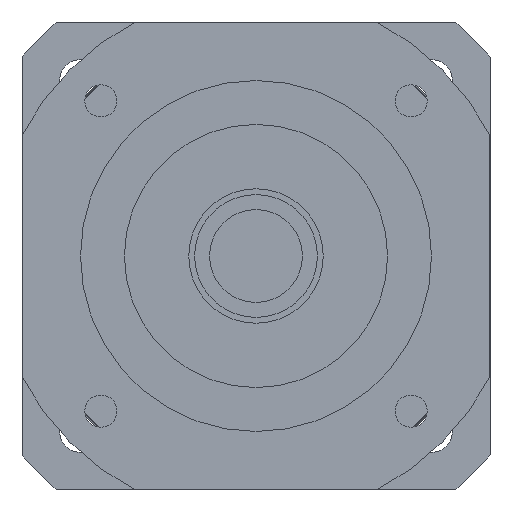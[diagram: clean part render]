
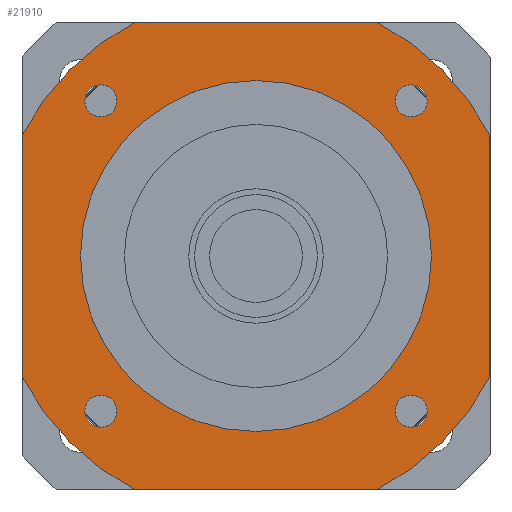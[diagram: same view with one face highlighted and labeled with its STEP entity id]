
A CAD part, left-side view. The second image highlights one B-rep face of the part: STEP entity #21910.
In plain terms, the highlighted planar face has unit normal (-1, 0, 0) as drawn and (0, 0, -1) by its records, which use the part's own axes.
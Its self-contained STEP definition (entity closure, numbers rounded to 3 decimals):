
#13830=CARTESIAN_POINT('',(20.616,40.,-42.));
#13840=VERTEX_POINT('',#13830);
#13890=CARTESIAN_POINT('',(0.,0.,
-42.));
#13900=DIRECTION('',(0.,0.,-1.));
#13910=DIRECTION('',(1.,0.,0.));
#13920=AXIS2_PLACEMENT_3D('',#13890,#13900,#13910);
#13930=CIRCLE('',#13920,45.);
#13940=CARTESIAN_POINT('',(40.,20.616,-42.));
#13950=VERTEX_POINT('',#13940);
#13960=EDGE_CURVE('',#13840,#13950,#13930,.T.);
#19660=CARTESIAN_POINT('',(40.,-20.616,-42.));
#19670=VERTEX_POINT('',#19660);
#19700=CARTESIAN_POINT('',(0.,0.,
-42.));
#19710=DIRECTION('',(0.,0.,-1.));
#19720=DIRECTION('',(1.,0.,0.));
#19730=AXIS2_PLACEMENT_3D('',#19700,#19710,#19720);
#19740=CIRCLE('',#19730,45.);
#19750=CARTESIAN_POINT('',(20.616,-40.,-42.));
#19760=VERTEX_POINT('',#19750);
#19770=EDGE_CURVE('',#19670,#19760,#19740,.T.);
#19950=CARTESIAN_POINT('',(40.,40.,-42.));
#19960=DIRECTION('',(0.,-1.,0.));
#19970=VECTOR('',#19960,1000.);
#19980=LINE('',#19950,#19970);
#19990=EDGE_CURVE('',#13950,#19670,#19980,.T.);
#20120=CARTESIAN_POINT('',(40.,-40.,-42.));
#20130=DIRECTION('',(-1.,0.,0.));
#20140=VECTOR('',#20130,1000.);
#20150=LINE('',#20120,#20140);
#20160=CARTESIAN_POINT('',(-20.616,-40.,-42.));
#20170=VERTEX_POINT('',#20160);
#20180=EDGE_CURVE('',#19760,#20170,#20150,.T.);
#20390=CARTESIAN_POINT('',(-40.,-20.616,-42.));
#20400=VERTEX_POINT('',#20390);
#20430=CARTESIAN_POINT('',(-40.,-40.,-42.));
#20440=DIRECTION('',(0.,1.,0.));
#20450=VECTOR('',#20440,1000.);
#20460=LINE('',#20430,#20450);
#20470=CARTESIAN_POINT('',(-40.,20.616,-42.));
#20480=VERTEX_POINT('',#20470);
#20490=EDGE_CURVE('',#20400,#20480,#20460,.T.);
#20700=CARTESIAN_POINT('',(-20.616,40.,-42.));
#20710=VERTEX_POINT('',#20700);
#20740=CARTESIAN_POINT('',(-40.,40.,-42.));
#20750=DIRECTION('',(1.,0.,0.));
#20760=VECTOR('',#20750,1000.);
#20770=LINE('',#20740,#20760);
#20780=EDGE_CURVE('',#20710,#13840,#20770,.T.);
#20850=CARTESIAN_POINT('',(40.,40.,-42.));
#20860=DIRECTION('',(0.,0.,-1.));
#20870=DIRECTION('',(1.,0.,0.));
#20880=AXIS2_PLACEMENT_3D('',#20850,#20860,#20870);
#20890=PLANE('',#20880);
#20900=CARTESIAN_POINT('',(-26.517,-26.517,-42.));
#20910=DIRECTION('',(0.,0.,-1.));
#20920=DIRECTION('',(0.,-1.,0.));
#20930=AXIS2_PLACEMENT_3D('',#20900,#20910,#20920);
#20940=CIRCLE('',#20930,2.75);
#20950=CARTESIAN_POINT('',(-26.517,-29.267,-42.));
#20960=VERTEX_POINT('',#20950);
#20970=CARTESIAN_POINT('',(-26.517,-23.767,-42.));
#20980=VERTEX_POINT('',#20970);
#20990=EDGE_CURVE('',#20960,#20980,#20940,.T.);
#21000=ORIENTED_EDGE('',*,*,#20990,.F.);
#21010=EDGE_CURVE('',#20980,#20960,#20940,.T.);
#21020=ORIENTED_EDGE('',*,*,#21010,.F.);
#21030=EDGE_LOOP('',(#21020,#21000));
#21040=FACE_BOUND('',#21030,.T.);
#21050=CARTESIAN_POINT('',(-26.517,26.517,-42.));
#21060=DIRECTION('',(0.,0.,-1.));
#21070=DIRECTION('',(-1.,0.,0.));
#21080=AXIS2_PLACEMENT_3D('',#21050,#21060,#21070);
#21090=CIRCLE('',#21080,2.75);
#21100=CARTESIAN_POINT('',(-29.267,26.517,-42.));
#21110=VERTEX_POINT('',#21100);
#21120=CARTESIAN_POINT('',(-23.767,26.517,-42.));
#21130=VERTEX_POINT('',#21120);
#21140=EDGE_CURVE('',#21110,#21130,#21090,.T.);
#21150=ORIENTED_EDGE('',*,*,#21140,.F.);
#21160=EDGE_CURVE('',#21130,#21110,#21090,.T.);
#21170=ORIENTED_EDGE('',*,*,#21160,.F.);
#21180=EDGE_LOOP('',(#21170,#21150));
#21190=FACE_BOUND('',#21180,.T.);
#21200=CARTESIAN_POINT('',(26.517,26.517,-42.));
#21210=DIRECTION('',(0.,0.,-1.));
#21220=DIRECTION('',(0.,1.,0.));
#21230=AXIS2_PLACEMENT_3D('',#21200,#21210,#21220);
#21240=CIRCLE('',#21230,2.75);
#21250=CARTESIAN_POINT('',(26.517,29.267,-42.));
#21260=VERTEX_POINT('',#21250);
#21270=CARTESIAN_POINT('',(26.517,23.767,-42.));
#21280=VERTEX_POINT('',#21270);
#21290=EDGE_CURVE('',#21260,#21280,#21240,.T.);
#21300=ORIENTED_EDGE('',*,*,#21290,.F.);
#21310=EDGE_CURVE('',#21280,#21260,#21240,.T.);
#21320=ORIENTED_EDGE('',*,*,#21310,.F.);
#21330=EDGE_LOOP('',(#21320,#21300));
#21340=FACE_BOUND('',#21330,.T.);
#21350=CARTESIAN_POINT('',(0.,0.,
-42.));
#21360=DIRECTION('',(0.,0.,1.));
#21370=DIRECTION('',(0.,1.,0.));
#21380=AXIS2_PLACEMENT_3D('',#21350,#21360,#21370);
#21390=CIRCLE('',#21380,30.);
#21400=CARTESIAN_POINT('',(-30.,0.,-42.));
#21410=VERTEX_POINT('',#21400);
#21420=CARTESIAN_POINT('',(30.,0.,-42.));
#21430=VERTEX_POINT('',#21420);
#21440=EDGE_CURVE('',#21410,#21430,#21390,.T.);
#21450=ORIENTED_EDGE('',*,*,#21440,.T.);
#21460=CARTESIAN_POINT('',(0.,30.,-42.));
#21470=VERTEX_POINT('',#21460);
#21480=EDGE_CURVE('',#21470,#21410,#21390,.T.);
#21490=ORIENTED_EDGE('',*,*,#21480,.T.);
#21500=EDGE_CURVE('',#21430,#21470,#21390,.T.);
#21510=ORIENTED_EDGE('',*,*,#21500,.T.);
#21520=EDGE_LOOP('',(#21510,#21490,#21450));
#21530=FACE_BOUND('',#21520,.T.);
#21540=ORIENTED_EDGE('',*,*,#20780,.T.);
#21550=CARTESIAN_POINT('',(0.,0.,
-42.));
#21560=DIRECTION('',(0.,0.,-1.));
#21570=DIRECTION('',(1.,0.,0.));
#21580=AXIS2_PLACEMENT_3D('',#21550,#21560,#21570);
#21590=CIRCLE('',#21580,45.);
#21600=EDGE_CURVE('',#20480,#20710,#21590,.T.);
#21610=ORIENTED_EDGE('',*,*,#21600,.T.);
#21620=ORIENTED_EDGE('',*,*,#20490,.T.);
#21630=CARTESIAN_POINT('',(0.,0.,
-42.));
#21640=DIRECTION('',(0.,0.,-1.));
#21650=DIRECTION('',(1.,0.,0.));
#21660=AXIS2_PLACEMENT_3D('',#21630,#21640,#21650);
#21670=CIRCLE('',#21660,45.);
#21680=EDGE_CURVE('',#20170,#20400,#21670,.T.);
#21690=ORIENTED_EDGE('',*,*,#21680,.T.);
#21700=ORIENTED_EDGE('',*,*,#20180,.T.);
#21710=ORIENTED_EDGE('',*,*,#19770,.T.);
#21720=ORIENTED_EDGE('',*,*,#19990,.T.);
#21730=ORIENTED_EDGE('',*,*,#13960,.T.);
#21740=EDGE_LOOP('',(#21730,#21720,#21710,#21700,#21690,#21620,#21610,
#21540));
#21750=FACE_OUTER_BOUND('',#21740,.T.);
#21760=CARTESIAN_POINT('',(26.517,-26.517,-42.));
#21770=DIRECTION('',(0.,0.,-1.));
#21780=DIRECTION('',(1.,0.,0.));
#21790=AXIS2_PLACEMENT_3D('',#21760,#21770,#21780);
#21800=CIRCLE('',#21790,2.75);
#21810=CARTESIAN_POINT('',(29.267,-26.517,-42.));
#21820=VERTEX_POINT('',#21810);
#21830=CARTESIAN_POINT('',(23.767,-26.517,-42.));
#21840=VERTEX_POINT('',#21830);
#21850=EDGE_CURVE('',#21820,#21840,#21800,.T.);
#21860=ORIENTED_EDGE('',*,*,#21850,.F.);
#21870=EDGE_CURVE('',#21840,#21820,#21800,.T.);
#21880=ORIENTED_EDGE('',*,*,#21870,.F.);
#21890=EDGE_LOOP('',(#21880,#21860));
#21900=FACE_BOUND('',#21890,.T.);
#21910=ADVANCED_FACE('',(#21040,#21190,#21340,#21530,#21750,#21900),
#20890,.T.);
